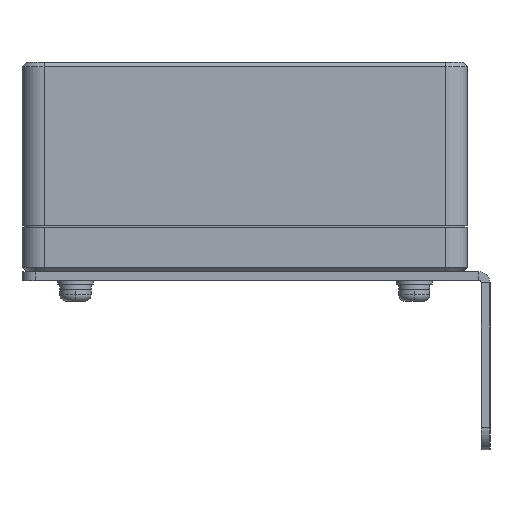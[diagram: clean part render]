
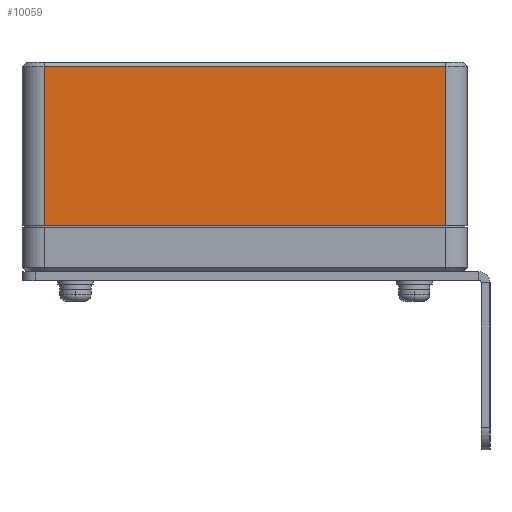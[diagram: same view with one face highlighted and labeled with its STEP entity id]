
A CAD part, left-side view. The second image highlights one B-rep face of the part: STEP entity #10059.
In plain terms, the highlighted planar face has unit normal (-1, 0, 0).
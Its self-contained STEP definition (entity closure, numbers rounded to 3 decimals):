
#2546=DIRECTION('',(0.,0.,1.));
#2547=VECTOR('',#2546,90.);
#2548=CARTESIAN_POINT('',(-100.,36.7,-45.));
#2549=LINE('',#2548,#2547);
#2553=DIRECTION('',(0.,-1.,0.));
#2554=VECTOR('',#2553,35.7);
#2555=CARTESIAN_POINT('',(-100.,36.7,45.));
#2556=LINE('',#2555,#2554);
#2560=DIRECTION('',(0.,0.,-1.));
#2561=VECTOR('',#2560,90.);
#2562=CARTESIAN_POINT('',(-100.,1.,
45.));
#2563=LINE('',#2562,#2561);
#2567=DIRECTION('',(0.,-1.,0.));
#2568=VECTOR('',#2567,35.7);
#2569=CARTESIAN_POINT('',(-100.,36.7,-45.));
#2570=LINE('',#2569,#2568);
#6946=CARTESIAN_POINT('',(-100.,1.,45.));
#6948=VERTEX_POINT('',#6946);
#6951=CARTESIAN_POINT('',(-100.,1.,
-45.));
#6952=VERTEX_POINT('',#6951);
#7261=CARTESIAN_POINT('',(-100.,36.7,-45.));
#7262=CARTESIAN_POINT('',(-100.,36.7,45.));
#7263=VERTEX_POINT('',#7261);
#7264=VERTEX_POINT('',#7262);
#10046=CARTESIAN_POINT('',(-100.,0.,-50.));
#10047=DIRECTION('',(-1.,0.,0.));
#10048=DIRECTION('',(0.,0.,1.));
#10049=AXIS2_PLACEMENT_3D('',#10046,#10047,#10048);
#10050=PLANE('',#10049);
#10051=ORIENTED_EDGE('',*,*,#9535,.T.);
#10052=ORIENTED_EDGE('',*,*,#9525,.T.);
#10054=ORIENTED_EDGE('',*,*,#10053,.T.);
#10056=ORIENTED_EDGE('',*,*,#10055,.F.);
#10057=EDGE_LOOP('',(#10051,#10052,#10054,#10056));
#10058=FACE_OUTER_BOUND('',#10057,.F.);
#9525=EDGE_CURVE('',#7264,#6948,#2556,.T.);
#9535=EDGE_CURVE('',#7263,#7264,#2549,.T.);
#10053=EDGE_CURVE('',#6948,#6952,#2563,.T.);
#10055=EDGE_CURVE('',#7263,#6952,#2570,.T.);
#10059=ADVANCED_FACE('',(#10058),#10050,.T.);
